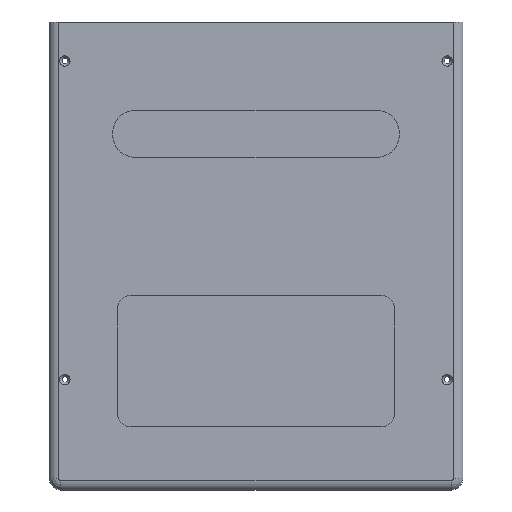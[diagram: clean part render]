
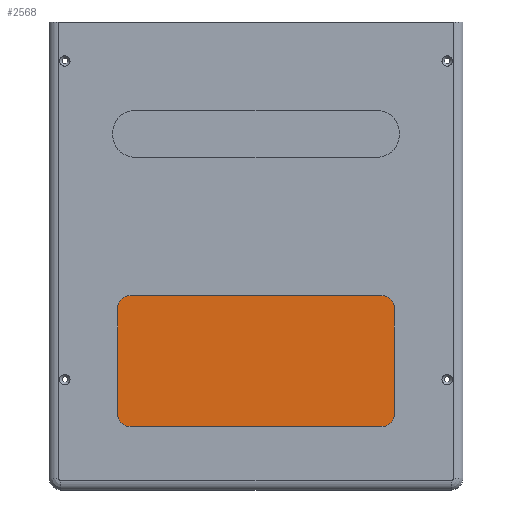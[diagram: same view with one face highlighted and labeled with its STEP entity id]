
A CAD part, top view. The second image highlights one B-rep face of the part: STEP entity #2568.
In plain terms, the highlighted planar face has unit normal (0, 0, 1).
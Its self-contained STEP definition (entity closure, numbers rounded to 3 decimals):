
#344 = CYLINDRICAL_SURFACE('',#345,5.);
#345 = AXIS2_PLACEMENT_3D('',#346,#347,#348);
#346 = CARTESIAN_POINT('',(33.,31.,54.65));
#347 = DIRECTION('',(0.,0.,1.));
#348 = DIRECTION('',(-1.,-0.,0.));
#371 = PLANE('',#372);
#372 = AXIS2_PLACEMENT_3D('',#373,#374,#375);
#373 = CARTESIAN_POINT('',(28.,26.,54.65));
#374 = DIRECTION('',(1.,0.,0.));
#375 = DIRECTION('',(0.,0.,1.));
#399 = CYLINDRICAL_SURFACE('',#400,5.);
#400 = AXIS2_PLACEMENT_3D('',#401,#402,#403);
#401 = CARTESIAN_POINT('',(33.,74.,54.65));
#402 = DIRECTION('',(0.,0.,1.));
#403 = DIRECTION('',(-1.,-0.,0.));
#426 = PLANE('',#427);
#427 = AXIS2_PLACEMENT_3D('',#428,#429,#430);
#428 = CARTESIAN_POINT('',(28.,79.,54.65));
#429 = DIRECTION('',(0.,1.,0.));
#430 = DIRECTION('',(0.,0.,1.));
#454 = CYLINDRICAL_SURFACE('',#455,5.);
#455 = AXIS2_PLACEMENT_3D('',#456,#457,#458);
#456 = CARTESIAN_POINT('',(135.,74.,54.65));
#457 = DIRECTION('',(0.,0.,1.));
#458 = DIRECTION('',(1.,0.,-0.));
#481 = PLANE('',#482);
#482 = AXIS2_PLACEMENT_3D('',#483,#484,#485);
#483 = CARTESIAN_POINT('',(140.,26.,54.65));
#484 = DIRECTION('',(1.,0.,0.));
#485 = DIRECTION('',(0.,0.,1.));
#509 = CYLINDRICAL_SURFACE('',#510,5.);
#510 = AXIS2_PLACEMENT_3D('',#511,#512,#513);
#511 = CARTESIAN_POINT('',(135.,31.,54.65));
#512 = DIRECTION('',(0.,0.,1.));
#513 = DIRECTION('',(1.,0.,-0.));
#534 = PLANE('',#535);
#535 = AXIS2_PLACEMENT_3D('',#536,#537,#538);
#536 = CARTESIAN_POINT('',(28.,26.,54.65));
#537 = DIRECTION('',(0.,1.,0.));
#538 = DIRECTION('',(0.,0.,1.));
#1497 = VERTEX_POINT('',#1498);
#1498 = CARTESIAN_POINT('',(28.,31.,54.65));
#1519 = EDGE_CURVE('',#1497,#1520,#1522,.T.);
#1520 = VERTEX_POINT('',#1521);
#1521 = CARTESIAN_POINT('',(33.,26.,54.65));
#1522 = SURFACE_CURVE('',#1523,(#1528,#1535),.PCURVE_S1.);
#1523 = CIRCLE('',#1524,5.);
#1524 = AXIS2_PLACEMENT_3D('',#1525,#1526,#1527);
#1525 = CARTESIAN_POINT('',(33.,31.,54.65));
#1526 = DIRECTION('',(0.,0.,1.));
#1527 = DIRECTION('',(0.,-1.,0.));
#1528 = PCURVE('',#344,#1529);
#1529 = DEFINITIONAL_REPRESENTATION('',(#1530),#1534);
#1530 = LINE('',#1531,#1532);
#1531 = CARTESIAN_POINT('',(-4.712,0.));
#1532 = VECTOR('',#1533,1.);
#1533 = DIRECTION('',(1.,0.));
#1534 = ( GEOMETRIC_REPRESENTATION_CONTEXT(2) 
PARAMETRIC_REPRESENTATION_CONTEXT() REPRESENTATION_CONTEXT('2D SPACE',''
  ) );
#1535 = PCURVE('',#1536,#1541);
#1536 = PLANE('',#1537);
#1537 = AXIS2_PLACEMENT_3D('',#1538,#1539,#1540);
#1538 = CARTESIAN_POINT('',(28.,26.,54.65));
#1539 = DIRECTION('',(0.,0.,1.));
#1540 = DIRECTION('',(1.,0.,0.));
#1541 = DEFINITIONAL_REPRESENTATION('',(#1542),#1546);
#1542 = CIRCLE('',#1543,5.);
#1543 = AXIS2_PLACEMENT_2D('',#1544,#1545);
#1544 = CARTESIAN_POINT('',(5.,5.));
#1545 = DIRECTION('',(0.,-1.));
#1546 = ( GEOMETRIC_REPRESENTATION_CONTEXT(2) 
PARAMETRIC_REPRESENTATION_CONTEXT() REPRESENTATION_CONTEXT('2D SPACE',''
  ) );
#1575 = EDGE_CURVE('',#1497,#1576,#1578,.T.);
#1576 = VERTEX_POINT('',#1577);
#1577 = CARTESIAN_POINT('',(28.,74.,54.65));
#1578 = SURFACE_CURVE('',#1579,(#1583,#1590),.PCURVE_S1.);
#1579 = LINE('',#1580,#1581);
#1580 = CARTESIAN_POINT('',(28.,26.,54.65));
#1581 = VECTOR('',#1582,1.);
#1582 = DIRECTION('',(0.,1.,0.));
#1583 = PCURVE('',#371,#1584);
#1584 = DEFINITIONAL_REPRESENTATION('',(#1585),#1589);
#1585 = LINE('',#1586,#1587);
#1586 = CARTESIAN_POINT('',(0.,0.));
#1587 = VECTOR('',#1588,1.);
#1588 = DIRECTION('',(0.,-1.));
#1589 = ( GEOMETRIC_REPRESENTATION_CONTEXT(2) 
PARAMETRIC_REPRESENTATION_CONTEXT() REPRESENTATION_CONTEXT('2D SPACE',''
  ) );
#1590 = PCURVE('',#1536,#1591);
#1591 = DEFINITIONAL_REPRESENTATION('',(#1592),#1596);
#1592 = LINE('',#1593,#1594);
#1593 = CARTESIAN_POINT('',(0.,0.));
#1594 = VECTOR('',#1595,1.);
#1595 = DIRECTION('',(0.,1.));
#1596 = ( GEOMETRIC_REPRESENTATION_CONTEXT(2) 
PARAMETRIC_REPRESENTATION_CONTEXT() REPRESENTATION_CONTEXT('2D SPACE',''
  ) );
#1622 = EDGE_CURVE('',#1520,#1623,#1625,.T.);
#1623 = VERTEX_POINT('',#1624);
#1624 = CARTESIAN_POINT('',(135.,26.,54.65));
#1625 = SURFACE_CURVE('',#1626,(#1630,#1637),.PCURVE_S1.);
#1626 = LINE('',#1627,#1628);
#1627 = CARTESIAN_POINT('',(28.,26.,54.65));
#1628 = VECTOR('',#1629,1.);
#1629 = DIRECTION('',(1.,0.,0.));
#1630 = PCURVE('',#534,#1631);
#1631 = DEFINITIONAL_REPRESENTATION('',(#1632),#1636);
#1632 = LINE('',#1633,#1634);
#1633 = CARTESIAN_POINT('',(0.,0.));
#1634 = VECTOR('',#1635,1.);
#1635 = DIRECTION('',(0.,1.));
#1636 = ( GEOMETRIC_REPRESENTATION_CONTEXT(2) 
PARAMETRIC_REPRESENTATION_CONTEXT() REPRESENTATION_CONTEXT('2D SPACE',''
  ) );
#1637 = PCURVE('',#1536,#1638);
#1638 = DEFINITIONAL_REPRESENTATION('',(#1639),#1643);
#1639 = LINE('',#1640,#1641);
#1640 = CARTESIAN_POINT('',(0.,0.));
#1641 = VECTOR('',#1642,1.);
#1642 = DIRECTION('',(1.,0.));
#1643 = ( GEOMETRIC_REPRESENTATION_CONTEXT(2) 
PARAMETRIC_REPRESENTATION_CONTEXT() REPRESENTATION_CONTEXT('2D SPACE',''
  ) );
#1672 = EDGE_CURVE('',#1576,#1673,#1675,.T.);
#1673 = VERTEX_POINT('',#1674);
#1674 = CARTESIAN_POINT('',(33.,79.,54.65));
#1675 = SURFACE_CURVE('',#1676,(#1681,#1688),.PCURVE_S1.);
#1676 = CIRCLE('',#1677,5.);
#1677 = AXIS2_PLACEMENT_3D('',#1678,#1679,#1680);
#1678 = CARTESIAN_POINT('',(33.,74.,54.65));
#1679 = DIRECTION('',(-0.,-0.,-1.));
#1680 = DIRECTION('',(0.,-1.,0.));
#1681 = PCURVE('',#399,#1682);
#1682 = DEFINITIONAL_REPRESENTATION('',(#1683),#1687);
#1683 = LINE('',#1684,#1685);
#1684 = CARTESIAN_POINT('',(1.571,-0.));
#1685 = VECTOR('',#1686,1.);
#1686 = DIRECTION('',(-1.,0.));
#1687 = ( GEOMETRIC_REPRESENTATION_CONTEXT(2) 
PARAMETRIC_REPRESENTATION_CONTEXT() REPRESENTATION_CONTEXT('2D SPACE',''
  ) );
#1688 = PCURVE('',#1536,#1689);
#1689 = DEFINITIONAL_REPRESENTATION('',(#1690),#1698);
#1690 = ( BOUNDED_CURVE() B_SPLINE_CURVE(2,(#1691,#1692,#1693,#1694,
#1695,#1696,#1697),.UNSPECIFIED.,.T.,.F.) B_SPLINE_CURVE_WITH_KNOTS((1,2
    ,2,2,2,1),(-2.094,0.,2.094,4.189,
6.283,8.378),.UNSPECIFIED.) CURVE() 
GEOMETRIC_REPRESENTATION_ITEM() RATIONAL_B_SPLINE_CURVE((1.,0.5,1.,0.5,
1.,0.5,1.)) REPRESENTATION_ITEM('') );
#1691 = CARTESIAN_POINT('',(5.,43.));
#1692 = CARTESIAN_POINT('',(-3.66,43.));
#1693 = CARTESIAN_POINT('',(0.67,50.5));
#1694 = CARTESIAN_POINT('',(5.,58.));
#1695 = CARTESIAN_POINT('',(9.33,50.5));
#1696 = CARTESIAN_POINT('',(13.66,43.));
#1697 = CARTESIAN_POINT('',(5.,43.));
#1698 = ( GEOMETRIC_REPRESENTATION_CONTEXT(2) 
PARAMETRIC_REPRESENTATION_CONTEXT() REPRESENTATION_CONTEXT('2D SPACE',''
  ) );
#1726 = VERTEX_POINT('',#1727);
#1727 = CARTESIAN_POINT('',(140.,31.,54.65));
#1748 = EDGE_CURVE('',#1726,#1623,#1749,.T.);
#1749 = SURFACE_CURVE('',#1750,(#1755,#1762),.PCURVE_S1.);
#1750 = CIRCLE('',#1751,5.);
#1751 = AXIS2_PLACEMENT_3D('',#1752,#1753,#1754);
#1752 = CARTESIAN_POINT('',(135.,31.,54.65));
#1753 = DIRECTION('',(-0.,-0.,-1.));
#1754 = DIRECTION('',(0.,-1.,0.));
#1755 = PCURVE('',#509,#1756);
#1756 = DEFINITIONAL_REPRESENTATION('',(#1757),#1761);
#1757 = LINE('',#1758,#1759);
#1758 = CARTESIAN_POINT('',(4.712,-0.));
#1759 = VECTOR('',#1760,1.);
#1760 = DIRECTION('',(-1.,0.));
#1761 = ( GEOMETRIC_REPRESENTATION_CONTEXT(2) 
PARAMETRIC_REPRESENTATION_CONTEXT() REPRESENTATION_CONTEXT('2D SPACE',''
  ) );
#1762 = PCURVE('',#1536,#1763);
#1763 = DEFINITIONAL_REPRESENTATION('',(#1764),#1772);
#1764 = ( BOUNDED_CURVE() B_SPLINE_CURVE(2,(#1765,#1766,#1767,#1768,
#1769,#1770,#1771),.UNSPECIFIED.,.T.,.F.) B_SPLINE_CURVE_WITH_KNOTS((1,2
    ,2,2,2,1),(-2.094,0.,2.094,4.189,
6.283,8.378),.UNSPECIFIED.) CURVE() 
GEOMETRIC_REPRESENTATION_ITEM() RATIONAL_B_SPLINE_CURVE((1.,0.5,1.,0.5,
1.,0.5,1.)) REPRESENTATION_ITEM('') );
#1765 = CARTESIAN_POINT('',(107.,0.));
#1766 = CARTESIAN_POINT('',(98.34,0.));
#1767 = CARTESIAN_POINT('',(102.67,7.5));
#1768 = CARTESIAN_POINT('',(107.,15.));
#1769 = CARTESIAN_POINT('',(111.33,7.5));
#1770 = CARTESIAN_POINT('',(115.66,0.));
#1771 = CARTESIAN_POINT('',(107.,0.));
#1772 = ( GEOMETRIC_REPRESENTATION_CONTEXT(2) 
PARAMETRIC_REPRESENTATION_CONTEXT() REPRESENTATION_CONTEXT('2D SPACE',''
  ) );
#1779 = EDGE_CURVE('',#1673,#1780,#1782,.T.);
#1780 = VERTEX_POINT('',#1781);
#1781 = CARTESIAN_POINT('',(135.,79.,54.65));
#1782 = SURFACE_CURVE('',#1783,(#1787,#1794),.PCURVE_S1.);
#1783 = LINE('',#1784,#1785);
#1784 = CARTESIAN_POINT('',(28.,79.,54.65));
#1785 = VECTOR('',#1786,1.);
#1786 = DIRECTION('',(1.,0.,0.));
#1787 = PCURVE('',#426,#1788);
#1788 = DEFINITIONAL_REPRESENTATION('',(#1789),#1793);
#1789 = LINE('',#1790,#1791);
#1790 = CARTESIAN_POINT('',(0.,0.));
#1791 = VECTOR('',#1792,1.);
#1792 = DIRECTION('',(0.,1.));
#1793 = ( GEOMETRIC_REPRESENTATION_CONTEXT(2) 
PARAMETRIC_REPRESENTATION_CONTEXT() REPRESENTATION_CONTEXT('2D SPACE',''
  ) );
#1794 = PCURVE('',#1536,#1795);
#1795 = DEFINITIONAL_REPRESENTATION('',(#1796),#1800);
#1796 = LINE('',#1797,#1798);
#1797 = CARTESIAN_POINT('',(0.,53.));
#1798 = VECTOR('',#1799,1.);
#1799 = DIRECTION('',(1.,0.));
#1800 = ( GEOMETRIC_REPRESENTATION_CONTEXT(2) 
PARAMETRIC_REPRESENTATION_CONTEXT() REPRESENTATION_CONTEXT('2D SPACE',''
  ) );
#1830 = EDGE_CURVE('',#1726,#1831,#1833,.T.);
#1831 = VERTEX_POINT('',#1832);
#1832 = CARTESIAN_POINT('',(140.,74.,54.65));
#1833 = SURFACE_CURVE('',#1834,(#1838,#1845),.PCURVE_S1.);
#1834 = LINE('',#1835,#1836);
#1835 = CARTESIAN_POINT('',(140.,26.,54.65));
#1836 = VECTOR('',#1837,1.);
#1837 = DIRECTION('',(0.,1.,0.));
#1838 = PCURVE('',#481,#1839);
#1839 = DEFINITIONAL_REPRESENTATION('',(#1840),#1844);
#1840 = LINE('',#1841,#1842);
#1841 = CARTESIAN_POINT('',(0.,0.));
#1842 = VECTOR('',#1843,1.);
#1843 = DIRECTION('',(0.,-1.));
#1844 = ( GEOMETRIC_REPRESENTATION_CONTEXT(2) 
PARAMETRIC_REPRESENTATION_CONTEXT() REPRESENTATION_CONTEXT('2D SPACE',''
  ) );
#1845 = PCURVE('',#1536,#1846);
#1846 = DEFINITIONAL_REPRESENTATION('',(#1847),#1851);
#1847 = LINE('',#1848,#1849);
#1848 = CARTESIAN_POINT('',(112.,0.));
#1849 = VECTOR('',#1850,1.);
#1850 = DIRECTION('',(0.,1.));
#1851 = ( GEOMETRIC_REPRESENTATION_CONTEXT(2) 
PARAMETRIC_REPRESENTATION_CONTEXT() REPRESENTATION_CONTEXT('2D SPACE',''
  ) );
#1878 = EDGE_CURVE('',#1831,#1780,#1879,.T.);
#1879 = SURFACE_CURVE('',#1880,(#1885,#1892),.PCURVE_S1.);
#1880 = CIRCLE('',#1881,5.);
#1881 = AXIS2_PLACEMENT_3D('',#1882,#1883,#1884);
#1882 = CARTESIAN_POINT('',(135.,74.,54.65));
#1883 = DIRECTION('',(0.,0.,1.));
#1884 = DIRECTION('',(0.,-1.,0.));
#1885 = PCURVE('',#454,#1886);
#1886 = DEFINITIONAL_REPRESENTATION('',(#1887),#1891);
#1887 = LINE('',#1888,#1889);
#1888 = CARTESIAN_POINT('',(-1.571,0.));
#1889 = VECTOR('',#1890,1.);
#1890 = DIRECTION('',(1.,0.));
#1891 = ( GEOMETRIC_REPRESENTATION_CONTEXT(2) 
PARAMETRIC_REPRESENTATION_CONTEXT() REPRESENTATION_CONTEXT('2D SPACE',''
  ) );
#1892 = PCURVE('',#1536,#1893);
#1893 = DEFINITIONAL_REPRESENTATION('',(#1894),#1898);
#1894 = CIRCLE('',#1895,5.);
#1895 = AXIS2_PLACEMENT_2D('',#1896,#1897);
#1896 = CARTESIAN_POINT('',(107.,48.));
#1897 = DIRECTION('',(0.,-1.));
#1898 = ( GEOMETRIC_REPRESENTATION_CONTEXT(2) 
PARAMETRIC_REPRESENTATION_CONTEXT() REPRESENTATION_CONTEXT('2D SPACE',''
  ) );
#2568 = ADVANCED_FACE('',(#2569),#1536,.T.);
#2569 = FACE_BOUND('',#2570,.T.);
#2570 = EDGE_LOOP('',(#2571,#2572,#2573,#2574,#2575,#2576,#2577,#2578));
#2571 = ORIENTED_EDGE('',*,*,#1575,.F.);
#2572 = ORIENTED_EDGE('',*,*,#1519,.T.);
#2573 = ORIENTED_EDGE('',*,*,#1622,.T.);
#2574 = ORIENTED_EDGE('',*,*,#1748,.F.);
#2575 = ORIENTED_EDGE('',*,*,#1830,.T.);
#2576 = ORIENTED_EDGE('',*,*,#1878,.T.);
#2577 = ORIENTED_EDGE('',*,*,#1779,.F.);
#2578 = ORIENTED_EDGE('',*,*,#1672,.F.);
